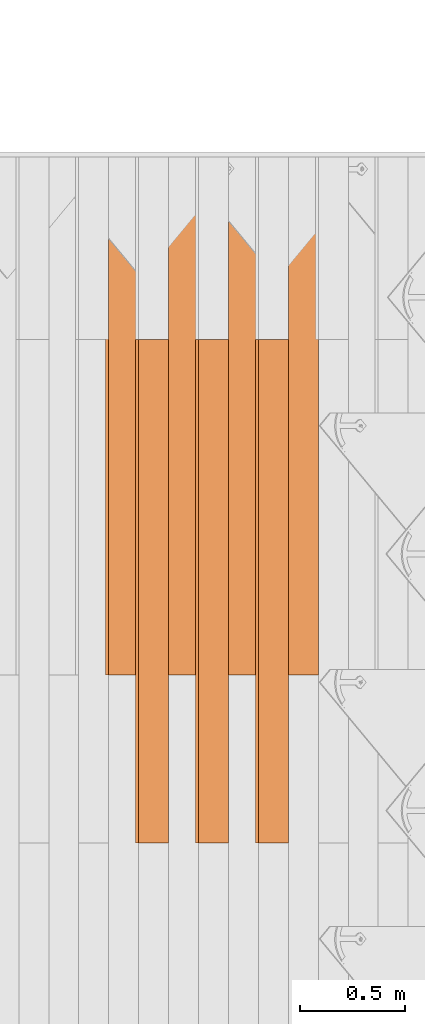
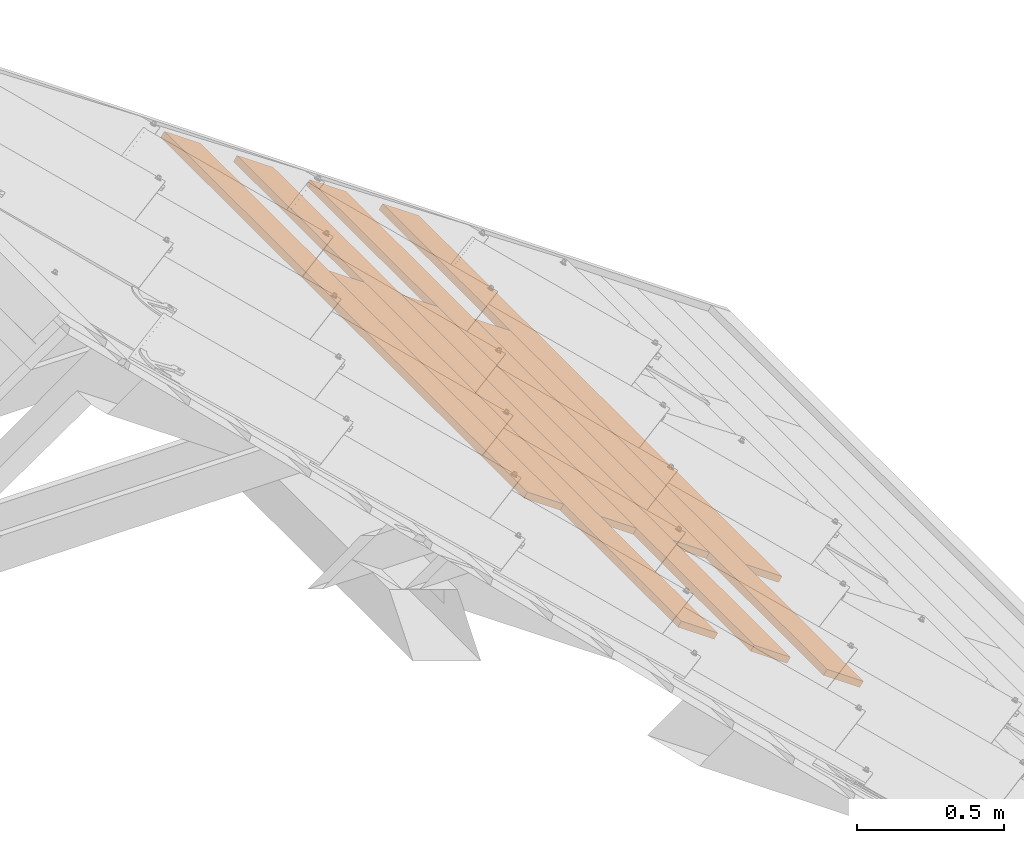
# One storey, part 74 of 151: 7 proxies, 1 element without a shape of its own.
"""IFC2X3 building model written with IfcOpenShell, lengths in millimetres."""

from ifc_helpers import new_model, entity, si_unit, converted_unit, derived_unit, direction, frame, frame_2d, origin, place, context, subcontext, project, spatial, rectangle, extrude, source, transform, mapped, material, type_object, type_shapes, element, aggregate, save


model = new_model("IFC2X3")

# Units and contexts
model_context = context("Model", 3, precision=0.01, world=origin(), true_north=direction((6.12303176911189e-17, 1.0)))
body_context = subcontext(model_context, "Body", "Model", "MODEL_VIEW")
ifc_project = project(units=[si_unit("LENGTHUNIT", "METRE", prefix="MILLI"), si_unit("AREAUNIT", "SQUARE_METRE"), si_unit("VOLUMEUNIT", "CUBIC_METRE"), converted_unit("PLANEANGLEUNIT", "DEGREE", entity("IfcRatioMeasure", 0.0174532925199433), si_unit("PLANEANGLEUNIT", "RADIAN"), dimensions=[0, 0, 0, 0, 0, 0, 0]), si_unit("MASSUNIT", "GRAM", prefix="KILO"), derived_unit("MASSDENSITYUNIT", [(si_unit("MASSUNIT", "GRAM", prefix="KILO"), 1), (si_unit("LENGTHUNIT", "METRE"), -3)]), si_unit("TIMEUNIT", "SECOND"), si_unit("FREQUENCYUNIT", "HERTZ"), si_unit("THERMODYNAMICTEMPERATUREUNIT", "DEGREE_CELSIUS"), derived_unit("THERMALTRANSMITTANCEUNIT", [(si_unit("MASSUNIT", "GRAM", prefix="KILO"), 1), (si_unit("THERMODYNAMICTEMPERATUREUNIT", "KELVIN"), -1), (si_unit("TIMEUNIT", "SECOND"), -3)]), derived_unit("VOLUMETRICFLOWRATEUNIT", [(si_unit("LENGTHUNIT", "METRE"), 3), (si_unit("TIMEUNIT", "SECOND"), -1)]), si_unit("ELECTRICCURRENTUNIT", "AMPERE"), si_unit("ELECTRICVOLTAGEUNIT", "VOLT"), si_unit("POWERUNIT", "WATT"), si_unit("FORCEUNIT", "NEWTON", prefix="KILO"), si_unit("ILLUMINANCEUNIT", "LUX"), si_unit("LUMINOUSFLUXUNIT", "LUMEN"), si_unit("LUMINOUSINTENSITYUNIT", "CANDELA"), derived_unit("USERDEFINED", [(si_unit("MASSUNIT", "GRAM", prefix="KILO"), -1), (si_unit("LENGTHUNIT", "METRE"), -2), (si_unit("TIMEUNIT", "SECOND"), 3), (si_unit("LUMINOUSFLUXUNIT", "LUMEN"), 1)]), derived_unit("LINEARVELOCITYUNIT", [(si_unit("LENGTHUNIT", "METRE"), 1), (si_unit("TIMEUNIT", "SECOND"), -1)]), si_unit("PRESSUREUNIT", "PASCAL"), derived_unit("USERDEFINED", [(si_unit("LENGTHUNIT", "METRE"), -2), (si_unit("MASSUNIT", "GRAM", prefix="KILO"), 1), (si_unit("TIMEUNIT", "SECOND"), -2)])], contexts=[model_context])

# Site, building, storey
site_placement = place(None, origin())
site = spatial("IfcSite", under=ifc_project, at=site_placement, Name="Default", CompositionType="ELEMENT")
building_placement = place(site_placement, origin())
building = spatial("IfcBuilding", under=site, at=building_placement, CompositionType="ELEMENT")
storey_placement = place(building_placement, origin())
storey = spatial("IfcBuildingStorey", under=building, at=storey_placement, Name="Level 1", CompositionType="ELEMENT", Elevation=0.0)

# Assembly, proxies
assembly_placement = place(storey_placement, origin())
assembly = element("IfcElementAssembly", 1, at=assembly_placement, inside=storey, Name="Structural Framing Assembly:Roof Construction Assembly", ObjectType="Structural Framing Assembly:Roof Construction Assembly", AssemblyPlace="NOTDEFINED", PredefinedType="USERDEFINED")
ifc_material = material(Name="Wood - Generic - Wood For Showcase")
building_element_proxy_type_1 = type_object("IfcBuildingElementProxyType", Name="Structural Framing 15", PredefinedType="NOTDEFINED", material=ifc_material)
shared_shape_1 = source(origin(), body_context, "Body", "SweptSolid", [
    extrude(rectangle(XDim=24.9999999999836, YDim=174.344679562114, at=frame_2d((3.73923114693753e-13, 6.3948846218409e-14), x_axis=(1.0, 0.0))), frame((1285.35601305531, 1455.55080214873, 2760.23940055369), z_axis=(0.0, 1.0, 0.0), x_axis=(0.573576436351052, 0.0, 0.819152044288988)), (0.0, 0.0, 1.0), 2469.99999999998),
])
type_shapes(building_element_proxy_type_1, [shared_shape_1])
proxy_1_placement = place(assembly_placement, frame((1771.26547920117, 0.0, -1200.0)))
proxy_1 = element("IfcBuildingElementProxy", 2, at=proxy_1_placement, type_object=building_element_proxy_type_1, material=ifc_material, Name="Structural Framing 215:Structural Framing 15", ObjectType="Structural Framing 215:Structural Framing 15", context=body_context, shape_type="MappedRepresentation", body=[
    mapped(shared_shape_1, transform((0.0, 0.0, 0.0), scale=1.0)),
])
building_element_proxy_type_2 = type_object("IfcBuildingElementProxyType", Name="Structural Framing 15", PredefinedType="NOTDEFINED", material=ifc_material)
shared_shape_2 = source(origin(), body_context, "Body", "SweptSolid", [
    extrude(rectangle(XDim=24.9999999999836, YDim=174.344679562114, at=frame_2d((2.97539770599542e-13, -4.2632564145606e-14), x_axis=(1.0, 0.0))), frame((1285.35601305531, 1525.55080214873, 2760.23940055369), z_axis=(0.0, 1.0, 0.0), x_axis=(0.573576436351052, 0.0, 0.819152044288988)), (0.0, 0.0, 1.0), 2399.99999999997),
])
type_shapes(building_element_proxy_type_2, [shared_shape_2])
proxy_2_placement = place(assembly_placement, frame((1914.0802798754, -870.0, -1300.0)))
proxy_2 = element("IfcBuildingElementProxy", 3, at=proxy_2_placement, type_object=building_element_proxy_type_2, material=ifc_material, Name="Structural Framing 220:Structural Framing 15", ObjectType="Structural Framing 220:Structural Framing 15", context=body_context, shape_type="MappedRepresentation", body=[
    mapped(shared_shape_2, transform((0.0, 0.0, 0.0), scale=1.0)),
])
building_element_proxy_type_3 = type_object("IfcBuildingElementProxyType", Name="Structural Framing 15", PredefinedType="NOTDEFINED", material=ifc_material)
shared_shape_3 = source(origin(), body_context, "Body", "SweptSolid", [
    extrude(rectangle(XDim=24.9999999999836, YDim=174.344679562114, at=frame_2d((3.73923114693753e-13, 6.3948846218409e-14), x_axis=(1.0, 0.0))), frame((1285.35601305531, 1455.55080214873, 2760.23940055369), z_axis=(0.0, 1.0, 0.0), x_axis=(0.573576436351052, 0.0, 0.819152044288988)), (0.0, 0.0, 1.0), 2469.99999999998),
])
type_shapes(building_element_proxy_type_3, [shared_shape_3])
proxy_3_placement = place(assembly_placement, frame((2056.89508054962, 0.0, -1400.0)))
proxy_3 = element("IfcBuildingElementProxy", 4, at=proxy_3_placement, type_object=building_element_proxy_type_3, material=ifc_material, Name="Structural Framing 225:Structural Framing 15", ObjectType="Structural Framing 225:Structural Framing 15", context=body_context, shape_type="MappedRepresentation", body=[
    mapped(shared_shape_3, transform((0.0, 0.0, 0.0), scale=1.0)),
])
building_element_proxy_type_4 = type_object("IfcBuildingElementProxyType", Name="Structural Framing 15", PredefinedType="NOTDEFINED", material=ifc_material)
shared_shape_4 = source(origin(), body_context, "Body", "SweptSolid", [
    extrude(rectangle(XDim=24.9999999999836, YDim=174.344679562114, at=frame_2d((2.97539770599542e-13, -4.2632564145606e-14), x_axis=(1.0, 0.0))), frame((1285.35601305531, 1525.55080214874, 2760.23940055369), z_axis=(0.0, 1.0, 0.0), x_axis=(0.573576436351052, 0.0, 0.819152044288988)), (0.0, 0.0, 1.0), 2399.99999999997),
])
type_shapes(building_element_proxy_type_4, [shared_shape_4])
proxy_4_placement = place(assembly_placement, frame((2199.70988122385, -870.0, -1500.0)))
proxy_4 = element("IfcBuildingElementProxy", 5, at=proxy_4_placement, type_object=building_element_proxy_type_4, material=ifc_material, Name="Structural Framing 230:Structural Framing 15", ObjectType="Structural Framing 230:Structural Framing 15", context=body_context, shape_type="MappedRepresentation", body=[
    mapped(shared_shape_4, transform((0.0, 0.0, 0.0), scale=1.0)),
])
building_element_proxy_type_5 = type_object("IfcBuildingElementProxyType", Name="Structural Framing 15", PredefinedType="NOTDEFINED", material=ifc_material)
shared_shape_5 = source(origin(), body_context, "Body", "SweptSolid", [
    extrude(rectangle(XDim=24.9999999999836, YDim=174.344679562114, at=frame_2d((3.73923114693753e-13, 6.3948846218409e-14), x_axis=(1.0, 0.0))), frame((1285.35601305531, 1455.55080214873, 2760.23940055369), z_axis=(0.0, 1.0, 0.0), x_axis=(0.573576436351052, 0.0, 0.819152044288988)), (0.0, 0.0, 1.0), 2469.99999999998),
])
type_shapes(building_element_proxy_type_5, [shared_shape_5])
proxy_5_placement = place(assembly_placement, frame((2342.52468189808, 0.0, -1600.0)))
proxy_5 = element("IfcBuildingElementProxy", 6, at=proxy_5_placement, type_object=building_element_proxy_type_5, material=ifc_material, Name="Structural Framing 235:Structural Framing 15", ObjectType="Structural Framing 235:Structural Framing 15", context=body_context, shape_type="MappedRepresentation", body=[
    mapped(shared_shape_5, transform((0.0, 0.0, 0.0), scale=1.0)),
])
building_element_proxy_type_6 = type_object("IfcBuildingElementProxyType", Name="Structural Framing 15", PredefinedType="NOTDEFINED", material=ifc_material)
shared_shape_6 = source(origin(), body_context, "Body", "SweptSolid", [
    extrude(rectangle(XDim=24.9999999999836, YDim=174.344679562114, at=frame_2d((2.97539770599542e-13, -4.2632564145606e-14), x_axis=(1.0, 0.0))), frame((1285.35601305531, 1525.55080214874, 2760.23940055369), z_axis=(0.0, 1.0, 0.0), x_axis=(0.573576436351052, 0.0, 0.819152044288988)), (0.0, 0.0, 1.0), 2399.99999999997),
])
type_shapes(building_element_proxy_type_6, [shared_shape_6])
proxy_6_placement = place(assembly_placement, frame((2485.3394825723, -870.0, -1700.0)))
proxy_6 = element("IfcBuildingElementProxy", 7, at=proxy_6_placement, type_object=building_element_proxy_type_6, material=ifc_material, Name="Structural Framing 240:Structural Framing 15", ObjectType="Structural Framing 240:Structural Framing 15", context=body_context, shape_type="MappedRepresentation", body=[
    mapped(shared_shape_6, transform((0.0, 0.0, 0.0), scale=1.0)),
])
building_element_proxy_type_7 = type_object("IfcBuildingElementProxyType", Name="Structural Framing 15", PredefinedType="NOTDEFINED", material=ifc_material)
shared_shape_7 = source(origin(), body_context, "Body", "SweptSolid", [
    extrude(rectangle(XDim=24.9999999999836, YDim=174.344679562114, at=frame_2d((3.73923114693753e-13, 6.3948846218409e-14), x_axis=(1.0, 0.0))), frame((1285.35601305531, 1455.55080214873, 2760.23940055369), z_axis=(0.0, 1.0, 0.0), x_axis=(0.573576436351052, 0.0, 0.819152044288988)), (0.0, 0.0, 1.0), 2469.99999999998),
])
type_shapes(building_element_proxy_type_7, [shared_shape_7])
proxy_7_placement = place(assembly_placement, frame((2628.15428324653, 0.0, -1800.0)))
proxy_7 = element("IfcBuildingElementProxy", 8, at=proxy_7_placement, type_object=building_element_proxy_type_7, material=ifc_material, Name="Structural Framing 245:Structural Framing 15", ObjectType="Structural Framing 245:Structural Framing 15", context=body_context, shape_type="MappedRepresentation", body=[
    mapped(shared_shape_7, transform((0.0, 0.0, 0.0), scale=1.0)),
])
aggregate(assembly, [proxy_1, proxy_2, proxy_3, proxy_4, proxy_5, proxy_6, proxy_7])

save(model, "model.ifc")
